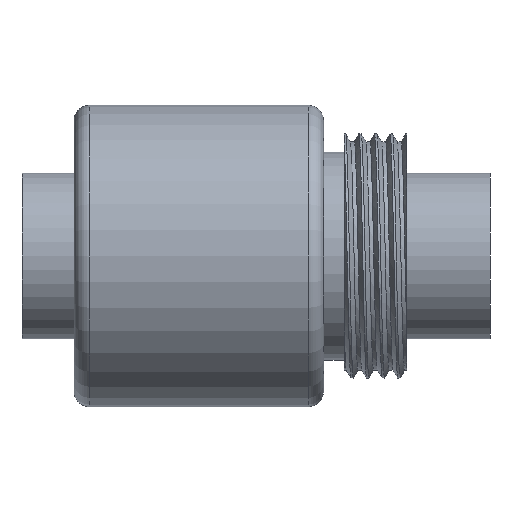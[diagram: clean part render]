
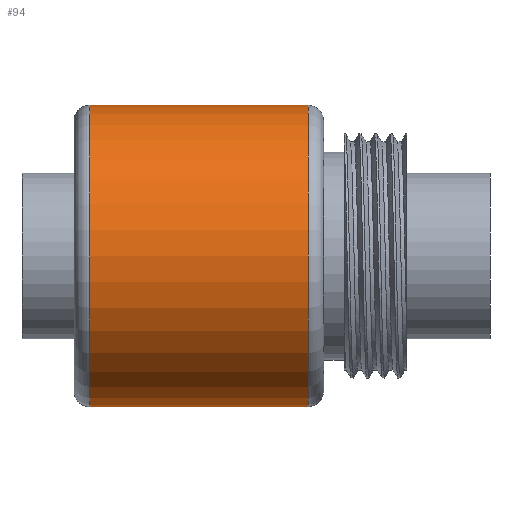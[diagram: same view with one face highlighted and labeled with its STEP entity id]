
A CAD part, left-side view. The second image highlights one B-rep face of the part: STEP entity #94.
In plain terms, the highlighted cylindrical face has radius 14.5 mm (diameter 29 mm), a full revolution.
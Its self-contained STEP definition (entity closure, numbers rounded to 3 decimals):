
#94=ADVANCED_FACE('',(#128,#129),#116,.T.);
#116=CYLINDRICAL_SURFACE('',#380,14.5);
#128=FACE_BOUND('',#169,.T.);
#129=FACE_BOUND('',#170,.T.);
#169=EDGE_LOOP('',(#219));
#170=EDGE_LOOP('',(#220));
#219=ORIENTED_EDGE('',*,*,#318,.T.);
#220=ORIENTED_EDGE('',*,*,#319,.T.);
#287=VERTEX_POINT('',#807);
#288=VERTEX_POINT('',#809);
#318=EDGE_CURVE('',#287,#287,#349,.T.);
#319=EDGE_CURVE('',#288,#288,#350,.T.);
#349=CIRCLE('',#378,14.5);
#350=CIRCLE('',#379,14.5);
#378=AXIS2_PLACEMENT_3D('',#806,#438,#439);
#379=AXIS2_PLACEMENT_3D('',#808,#440,#441);
#380=AXIS2_PLACEMENT_3D('',#810,#442,#443);
#438=DIRECTION('',(0.,-1.,0.));
#439=DIRECTION('',(0.,0.,-1.));
#440=DIRECTION('',(0.,1.,0.));
#441=DIRECTION('',(0.,0.,-1.));
#442=DIRECTION('',(0.,1.,0.));
#443=DIRECTION('',(0.,0.,1.));
#806=CARTESIAN_POINT('',(0.,30.5,0.));
#807=CARTESIAN_POINT('',(0.,30.5,-14.5));
#808=CARTESIAN_POINT('',(0.,9.5,0.));
#809=CARTESIAN_POINT('',(0.,9.5,-14.5));
#810=CARTESIAN_POINT('',(0.,0.,0.));
